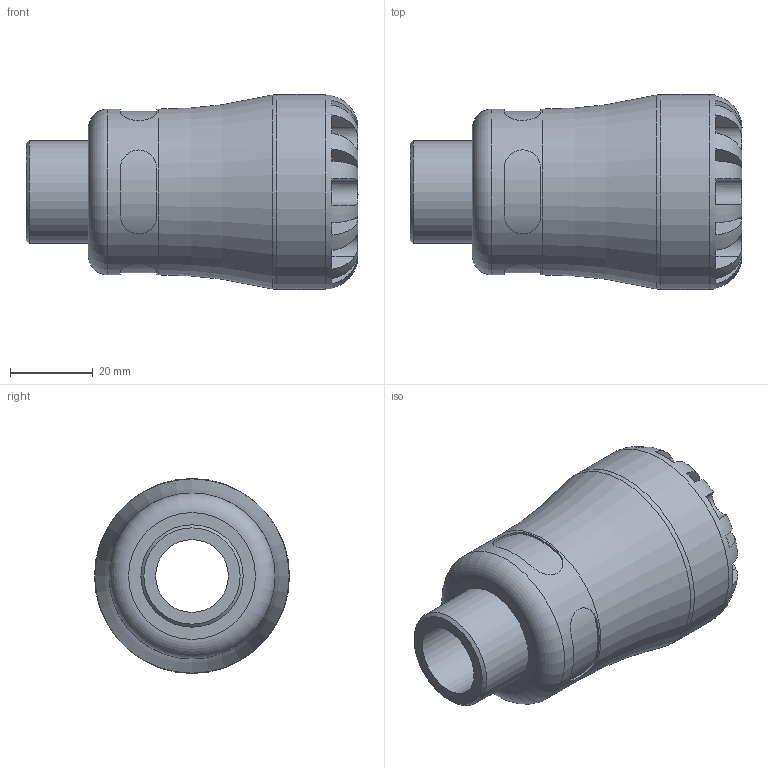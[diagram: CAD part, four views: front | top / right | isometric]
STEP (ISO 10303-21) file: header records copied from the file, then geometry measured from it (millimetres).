
FILE_DESCRIPTION(/* description */ ('PLASSON MALE INTEGRAL BRASS THREAD 25X3/4" SERIES 1'),/* implementation_level */ '2;1');
FILE_NAME(/* name */ 'C:\Dropbox\KIMPROJECTS-Inventor\99-16-3568-Processing\1072\107200025007_197200025007.ipt.stp',/* time_stamp */ '2017-01-22T10:48:47+02:00',/* author */ ('KIM'),/* organization */ (''),/* preprocessor_version */ 'ST-DEVELOPER v15.6',/* originating_system */ 'Autodesk Inventor 2015',/* authorisation */ '');
FILE_SCHEMA (('AUTOMOTIVE_DESIGN { 1 0 10303 214 3 1 1 }'));
Length unit declared in the file: millimetre
Products named in the file (1): 107200025007_197200025007
Bounding box: 80 x 47 x 47 mm (x, y, z)
Volume: 66475.8 mm3; surface area: 18462.9 mm2
Topology: 1 solids, 1 shells, 99 faces, 245 edges, 153 vertices
Faces by surface type: plane 60, cylinder 33, torus 4, cone 2
Full cylindrical faces by diameter (mm): 17.515 x1, 24.658 x1, 25 x1, 39.95 x1, 47 x1
Entity records: 3751 total; most frequent: CARTESIAN_POINT 1402, ORIENTED_EDGE 460, DIRECTION 452, EDGE_CURVE 230, AXIS2_PLACEMENT_3D 186, VERTEX_POINT 150, EDGE_LOOP 118, STYLED_ITEM 100
